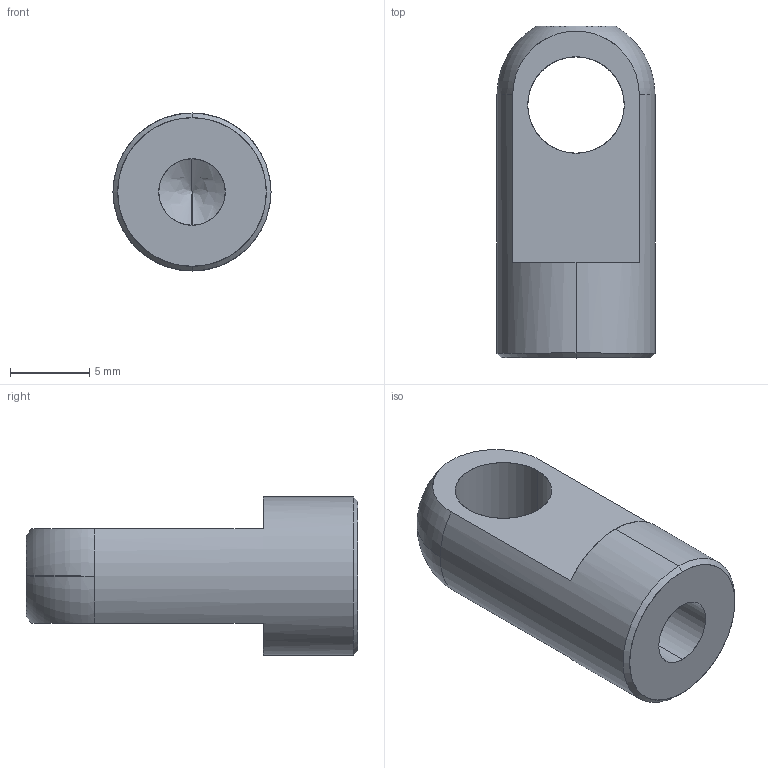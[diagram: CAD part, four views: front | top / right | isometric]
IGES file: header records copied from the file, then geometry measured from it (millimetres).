
Start section: SolidWorks IGES file using analytic representation for surfaces
Bounding box: 10 x 21 x 10 mm (x, y, z)
Surface area: 899.3 mm2 (no closed solid volume)
Topology: 0 solids, 0 shells, 18 faces, 308 edges, 306 vertices
Faces by surface type: revolution 12, bspline 6
